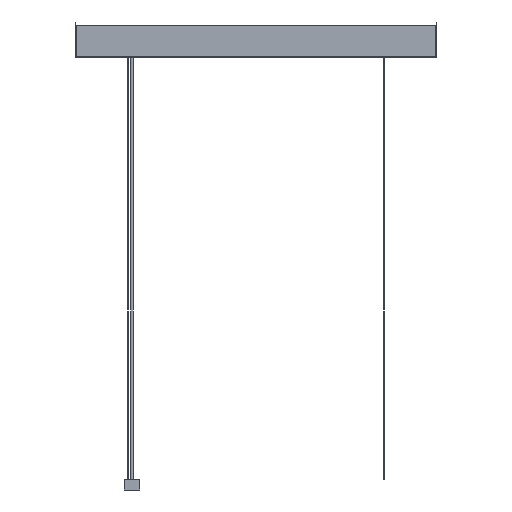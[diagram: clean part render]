
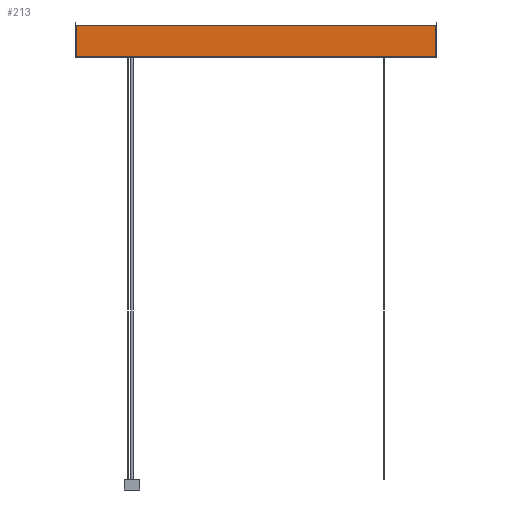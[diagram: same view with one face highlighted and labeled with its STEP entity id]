
A CAD part, front view. The second image highlights one B-rep face of the part: STEP entity #213.
In plain terms, the highlighted planar face has unit normal (0, -1, 0).
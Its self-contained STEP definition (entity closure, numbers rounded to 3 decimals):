
#213 = ADVANCED_FACE ( 'NONE', ( #1731 ), #607, .F. ) ;
#299 = VERTEX_POINT ( 'NONE', #524 ) ;
#342 = ORIENTED_EDGE ( 'NONE', *, *, #1700, .F. ) ;
#343 = ORIENTED_EDGE ( 'NONE', *, *, #1699, .T. ) ;
#345 = ORIENTED_EDGE ( 'NONE', *, *, #1698, .T. ) ;
#346 = ORIENTED_EDGE ( 'NONE', *, *, #1696, .F. ) ;
#500 = DIRECTION ( 'NONE',  ( 0., 0., -1. ) ) ;
#505 = CARTESIAN_POINT ( 'NONE',  ( 996.7, -34.5, -28.5 ) ) ;
#514 = DIRECTION ( 'NONE',  ( 1., 0., 0. ) ) ;
#515 = DIRECTION ( 'NONE',  ( 0., 0., -1. ) ) ;
#524 = CARTESIAN_POINT ( 'NONE',  ( -156.7, -34.5, -30. ) ) ;
#525 = CARTESIAN_POINT ( 'NONE',  ( -156.7, -34.5, -28.5 ) ) ;
#537 = DIRECTION ( 'NONE',  ( 1., 0., 0. ) ) ;
#545 = DIRECTION ( 'NONE',  ( 0., 0., -1. ) ) ;
#547 = DIRECTION ( 'NONE',  ( 0., 1., 0. ) ) ;
#574 = CARTESIAN_POINT ( 'NONE',  ( -436.7, -34.5, -30. ) ) ;
#607 = PLANE ( 'NONE',  #2910 ) ;
#610 = CARTESIAN_POINT ( 'NONE',  ( -436.7, -34.5, 71.5 ) ) ;
#683 = CARTESIAN_POINT ( 'NONE',  ( -436.7, -34.5, -28.5 ) ) ;
#1521 = CARTESIAN_POINT ( 'NONE',  ( 996.7, -34.5, 71.5 ) ) ;
#1523 = CARTESIAN_POINT ( 'NONE',  ( -156.7, -34.5, 71.5 ) ) ;
#1526 = CARTESIAN_POINT ( 'NONE',  ( 996.7, -34.5, -30. ) ) ;
#1696 = EDGE_CURVE ( 'NONE', #2398, #2402, #1828, .T. ) ;
#1698 = EDGE_CURVE ( 'NONE', #2398, #299, #1838, .T. ) ;
#1699 = EDGE_CURVE ( 'NONE', #299, #2397, #1834, .T. ) ;
#1700 = EDGE_CURVE ( 'NONE', #2402, #2397, #1842, .T. ) ;
#1731 = FACE_OUTER_BOUND ( 'NONE', #2655, .T. ) ;
#1828 = LINE ( 'NONE', #610, #1837 ) ;
#1834 = LINE ( 'NONE', #574, #1843 ) ;
#1837 = VECTOR ( 'NONE', #537, 1000. ) ;
#1838 = LINE ( 'NONE', #525, #1841 ) ;
#1841 = VECTOR ( 'NONE', #515, 1000. ) ;
#1842 = LINE ( 'NONE', #505, #1845 ) ;
#1843 = VECTOR ( 'NONE', #514, 1000. ) ;
#1845 = VECTOR ( 'NONE', #500, 1000. ) ;
#2397 = VERTEX_POINT ( 'NONE', #1526 ) ;
#2398 = VERTEX_POINT ( 'NONE', #1523 ) ;
#2402 = VERTEX_POINT ( 'NONE', #1521 ) ;
#2655 = EDGE_LOOP ( 'NONE', ( #346, #345, #343, #342 ) ) ;
#2910 = AXIS2_PLACEMENT_3D ( 'NONE', #683, #547, #545 ) ;
